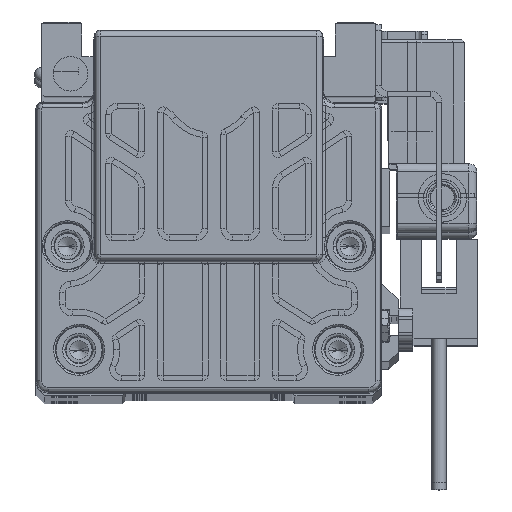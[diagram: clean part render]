
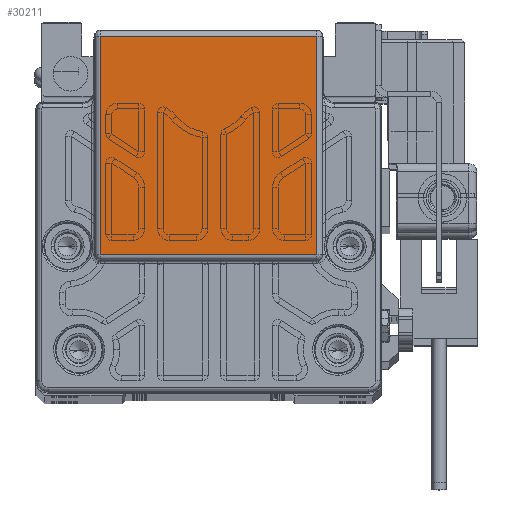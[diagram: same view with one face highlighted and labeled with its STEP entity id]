
A CAD part, top view. The second image highlights one B-rep face of the part: STEP entity #30211.
In plain terms, the highlighted planar face has unit normal (0, 0, 1) as drawn and (0, 0, -1) by its records, which use the part's own axes.
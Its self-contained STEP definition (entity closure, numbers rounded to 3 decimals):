
#1337 = CARTESIAN_POINT ( 'NONE',  ( -18.808, 31., -143. ) ) ;
#1482 = AXIS2_PLACEMENT_3D ( 'NONE', #82278, #41639, #3545 ) ;
#1800 = DIRECTION ( 'NONE',  ( 1., 0., 0. ) ) ;
#3116 = FACE_OUTER_BOUND ( 'NONE', #62720, .T. ) ;
#3545 = DIRECTION ( 'NONE',  ( 0., 1., 0. ) ) ;
#8537 = VERTEX_POINT ( 'NONE', #76736 ) ;
#8806 = EDGE_CURVE ( 'NONE', #49270, #8537, #61077, .T. ) ;
#10977 = EDGE_CURVE ( 'NONE', #49270, #51106, #68379, .T. ) ;
#15521 = VERTEX_POINT ( 'NONE', #24658 ) ;
#22124 = PLANE ( 'NONE',  #1482 ) ;
#23515 = CARTESIAN_POINT ( 'NONE',  ( -18.808, 24.518, -143. ) ) ;
#24658 = CARTESIAN_POINT ( 'NONE',  ( 18.808, 24.518, -143. ) ) ;
#25205 = VECTOR ( 'NONE', #42011, 1000. ) ;
#28112 = LINE ( 'NONE', #61014, #78221 ) ;
#30211 = ADVANCED_FACE ( 'NONE', ( #3116 ), #22124, .T. ) ;
#33659 = VECTOR ( 'NONE', #1800, 1000. ) ;
#35008 = ORIENTED_EDGE ( 'NONE', *, *, #63323, .F. ) ;
#35530 = CARTESIAN_POINT ( 'NONE',  ( 19., 62.447, -143. ) ) ;
#41639 = DIRECTION ( 'NONE',  ( 0., 0., -1. ) ) ;
#42011 = DIRECTION ( 'NONE',  ( 0., -1., 0. ) ) ;
#46188 = CARTESIAN_POINT ( 'NONE',  ( -18.808, 62.447, -143. ) ) ;
#47210 = ORIENTED_EDGE ( 'NONE', *, *, #8806, .T. ) ;
#49270 = VERTEX_POINT ( 'NONE', #46188 ) ;
#51106 = VERTEX_POINT ( 'NONE', #23515 ) ;
#56548 = DIRECTION ( 'NONE',  ( 1., 0., 0. ) ) ;
#60172 = DIRECTION ( 'NONE',  ( 0., 1., 0. ) ) ;
#61014 = CARTESIAN_POINT ( 'NONE',  ( 18.808, 24.5, -143. ) ) ;
#61077 = LINE ( 'NONE', #35530, #33659 ) ;
#61741 = CARTESIAN_POINT ( 'NONE',  ( 19., 24.518, -143. ) ) ;
#62720 = EDGE_LOOP ( 'NONE', ( #69823, #35008, #84898, #47210 ) ) ;
#63323 = EDGE_CURVE ( 'NONE', #51106, #15521, #75154, .T. ) ;
#68379 = LINE ( 'NONE', #1337, #25205 ) ;
#69823 = ORIENTED_EDGE ( 'NONE', *, *, #74886, .F. ) ;
#74886 = EDGE_CURVE ( 'NONE', #15521, #8537, #28112, .T. ) ;
#75154 = LINE ( 'NONE', #61741, #78733 ) ;
#76736 = CARTESIAN_POINT ( 'NONE',  ( 18.808, 62.447, -143. ) ) ;
#78221 = VECTOR ( 'NONE', #60172, 1000. ) ;
#78733 = VECTOR ( 'NONE', #56548, 1000. ) ;
#82278 = CARTESIAN_POINT ( 'NONE',  ( 19., 24.5, -143. ) ) ;
#84898 = ORIENTED_EDGE ( 'NONE', *, *, #10977, .F. ) ;
